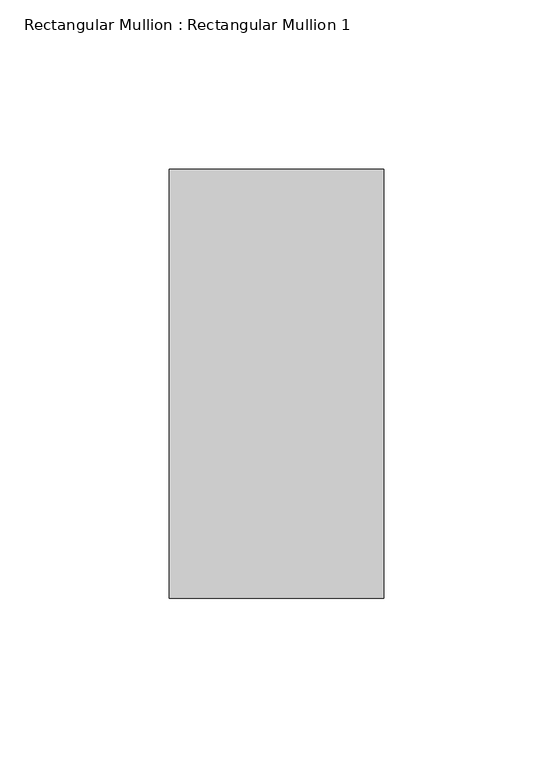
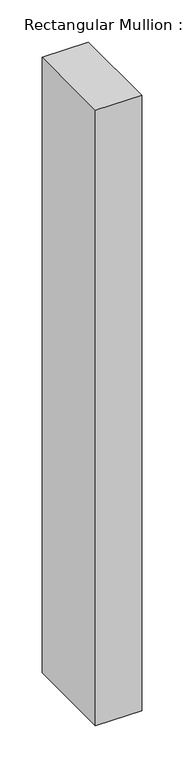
"""IFC4 building model written with IfcOpenShell, lengths in millimetres: member geometry, Rectangular Mullion : Rectangular Mullion 1."""

from ifc_helpers import new_model, si_unit, frame, origin, place, context, project, spatial, polyline, outline, extrude, source, transform, mapped, element, save


def rectangular_mullion_rectangular_mullion_1_8e9d10e0(model_context):
    return source(origin(), model_context, "Body", "SweptSolid", [
        extrude(outline(polyline([(31.75, 63.5), (31.75, -63.5), (-31.75, -63.5), (-31.75, 63.5), (31.75, 63.5)])), frame((0.0, 0.0, -893.8467633), z_axis=(0.0, 0.0, 1.0), x_axis=(1.0, 0.0, 0.0)), (0.0, 0.0, 1.0), 893.8467633),
    ])


if __name__ == "__main__":
    model = new_model("IFC4")
    model_context = context("Model", 3, world=origin())
    ifc_project = project(units=[si_unit("LENGTHUNIT", "METRE", prefix="MILLI")], contexts=[model_context])
    site = spatial("IfcSite", under=ifc_project)
    building = spatial("IfcBuilding", under=site)
    placement = place(None, origin())
    rectangular_mullion_rectangular_mullion_1_shape = rectangular_mullion_rectangular_mullion_1_8e9d10e0(model_context)
    element("IfcMember", 1, ObjectType="Rectangular Mullion : Rectangular Mullion 1", at=placement, inside=building, context=model_context, shape_type="MappedRepresentation", body=[
        mapped(rectangular_mullion_rectangular_mullion_1_shape, transform((0.0, 0.0, 0.0), x_axis=(1.0, 0.0, 0.0), y_axis=(0.0, 1.0, 0.0), z_axis=(0.0, 0.0, 1.0))),
    ])
    save(model, "model.ifc")
